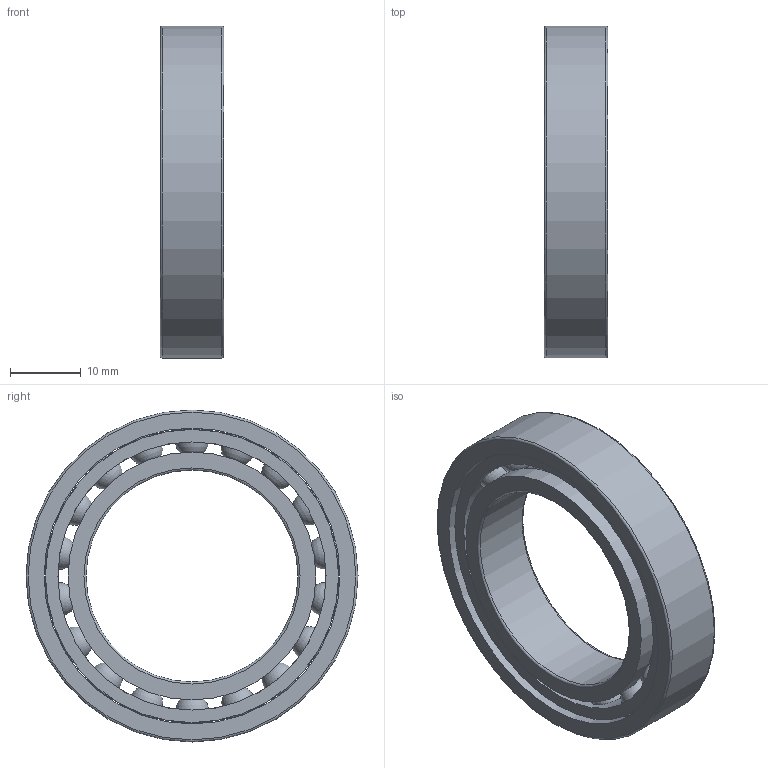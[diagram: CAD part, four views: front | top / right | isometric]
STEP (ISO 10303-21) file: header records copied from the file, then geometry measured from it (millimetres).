
FILE_DESCRIPTION(/* description */ (''),/* implementation_level */ '2;1');
FILE_NAME(/* name */ 'S_61906_TA.step',/* time_stamp */ '2013-03-06T14:46:46+01:00',/* author */ ('Marian'),/* organization */ ('GMN'),/* preprocessor_version */ 'ST-DEVELOPER v11',/* originating_system */ 'SIEMENS UGS NX 6.0',/* authorisation */ '');
FILE_SCHEMA (('CONFIG_CONTROL_DESIGN'));
Length unit declared in the file: millimetre
Products named in the file (1): S_61906_TA
Bounding box: 9 x 47 x 47 mm (x, y, z)
Volume: 6854.5 mm3; surface area: 8786.7 mm2
Topology: 21 solids, 21 shells, 56 faces, 146 edges, 94 vertices
Faces by surface type: cylinder 25, sphere 18, torus 6, plane 6, cone 1
Full cylindrical faces by diameter (mm): 4.962 x18, 30 x1, 35.1 x2, 37.962 x1, 41.5 x1, 41.9 x1, 47 x1
Entity records: 3270 total; most frequent: CARTESIAN_POINT 2239, DIRECTION 154, FACE_BOUND 130, EDGE_LOOP 112, ORIENTED_EDGE 112, AXIS2_PLACEMENT_3D 77, VERTEX_POINT 74, EDGE_CURVE 56
